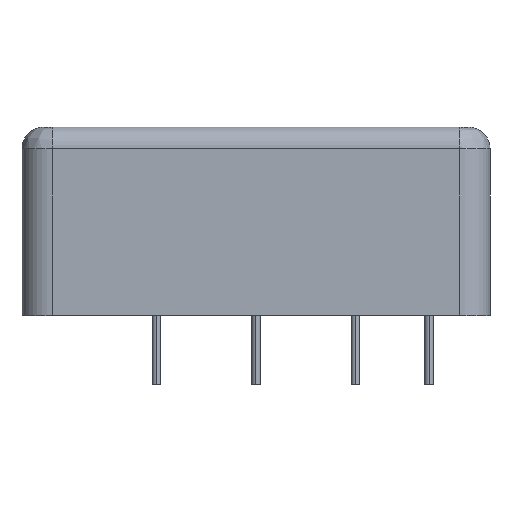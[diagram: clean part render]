
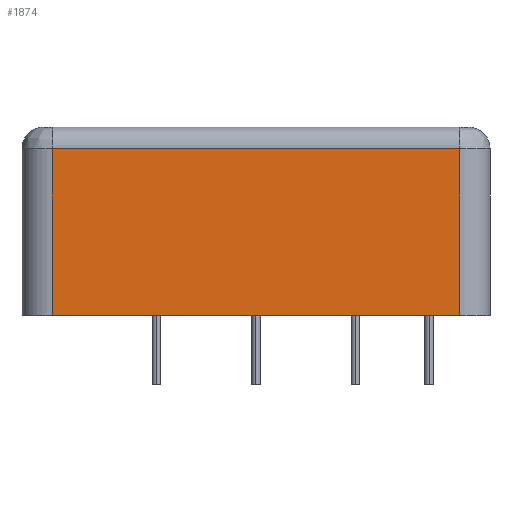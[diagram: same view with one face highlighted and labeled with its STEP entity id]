
A CAD part, left-side view. The second image highlights one B-rep face of the part: STEP entity #1874.
In plain terms, the highlighted planar face has unit normal (-1, 0, 0).
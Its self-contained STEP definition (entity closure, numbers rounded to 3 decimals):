
#54=DIRECTION('',(0.,-1.,0.));
#55=VECTOR('',#54,47.1);
#56=CARTESIAN_POINT('',(-37.05,23.55,0.));
#57=LINE('',#56,#55);
#288=DIRECTION('',(0.,0.,1.));
#289=VECTOR('',#288,19.3);
#290=CARTESIAN_POINT('',(-37.05,-23.55,0.));
#291=LINE('',#290,#289);
#292=DIRECTION('',(0.,-1.,0.));
#293=VECTOR('',#292,47.1);
#294=CARTESIAN_POINT('',(-37.05,23.55,19.3));
#295=LINE('',#294,#293);
#296=DIRECTION('',(0.,0.,1.));
#297=VECTOR('',#296,19.3);
#298=CARTESIAN_POINT('',(-37.05,23.55,0.));
#299=LINE('',#298,#297);
#1178=CARTESIAN_POINT('',(-37.05,23.55,0.));
#1180=VERTEX_POINT('',#1178);
#1181=CARTESIAN_POINT('',(-37.05,-23.55,0.));
#1182=VERTEX_POINT('',#1181);
#1215=CARTESIAN_POINT('',(-37.05,23.55,19.3));
#1216=VERTEX_POINT('',#1215);
#1219=CARTESIAN_POINT('',(-37.05,-23.55,19.3));
#1220=VERTEX_POINT('',#1219);
#1862=CARTESIAN_POINT('',(-37.05,23.55,0.));
#1863=DIRECTION('',(-1.,0.,0.));
#1864=DIRECTION('',(0.,-1.,0.));
#1865=AXIS2_PLACEMENT_3D('',#1862,#1863,#1864);
#1866=PLANE('',#1865);
#1868=ORIENTED_EDGE('',*,*,#1867,.T.);
#1869=ORIENTED_EDGE('',*,*,#1857,.F.);
#1870=ORIENTED_EDGE('',*,*,#1540,.F.);
#1871=ORIENTED_EDGE('',*,*,#1588,.T.);
#1872=EDGE_LOOP('',(#1868,#1869,#1870,#1871));
#1873=FACE_OUTER_BOUND('',#1872,.F.);
#1540=EDGE_CURVE('',#1180,#1182,#57,.T.);
#1588=EDGE_CURVE('',#1180,#1216,#299,.T.);
#1857=EDGE_CURVE('',#1182,#1220,#291,.T.);
#1867=EDGE_CURVE('',#1216,#1220,#295,.T.);
#1874=ADVANCED_FACE('',(#1873),#1866,.T.);
